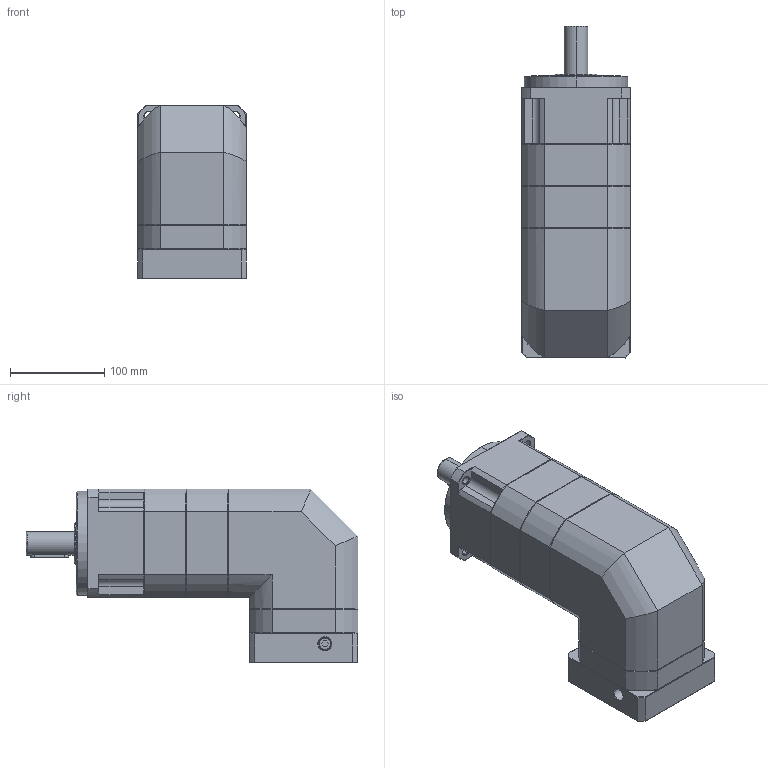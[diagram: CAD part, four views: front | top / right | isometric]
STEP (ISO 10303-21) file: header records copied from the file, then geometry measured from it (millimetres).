
FILE_DESCRIPTION (( 'STEP AP214' ), '1' );
FILE_NAME ('ZPBR115-D25-L3-P1-19-95-115-M8.step', '2024-06-29T08:03:09', ( 'Windows 蚚誧' ), ( 'Organization' ), 'SwSTEP 2.0', 'SolidWorks 2016', '' );
FILE_SCHEMA (( 'AUTOMOTIVE_DESIGN' ));
Length unit declared in the file: millimetre
Products named in the file (1): ZPBR115-D25-L3-P1-19-95-115-M8
Bounding box: 115 x 351.5 x 184.2 mm (x, y, z)
Surface area: 215511.3 mm2 (no closed solid volume)
Topology: 0 solids, 29 shells, 1870 faces, 5010 edges, 3199 vertices
Faces by surface type: plane 956, bspline 381, cone 294, cylinder 239
Full cylindrical faces by diameter (mm): 10.2 x1
Entity records: 100281 total; most frequent: CARTESIAN_POINT 49266, ORIENTED_EDGE 9990, DIRECTION 7689, EDGE_CURVE 5004, LINE 3223, VECTOR 3223, VERTEX_POINT 3197, AXIS2_PLACEMENT_3D 2233
